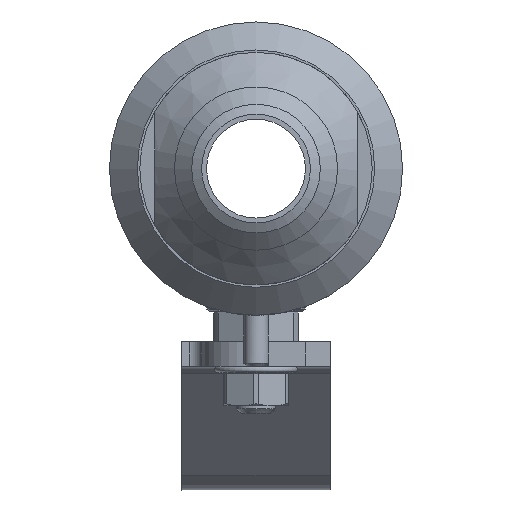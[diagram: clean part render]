
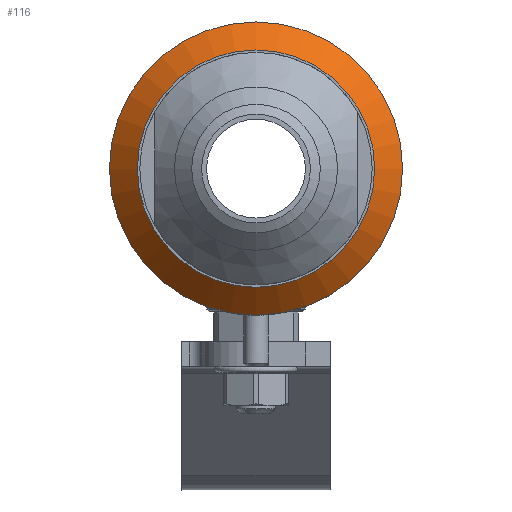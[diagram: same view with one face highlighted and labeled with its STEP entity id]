
A CAD part, left-side view. The second image highlights one B-rep face of the part: STEP entity #116.
In plain terms, the highlighted conical face has half-angle 45 degrees and reference radius 26.825 mm.
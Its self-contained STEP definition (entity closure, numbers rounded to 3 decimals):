
#116=ADVANCED_FACE('',(#957),#959,.T.);
#957=FACE_OUTER_BOUND('',#958,.T.);
#958=EDGE_LOOP('',(#1923,#1924,#1925,#1926));
#959=CONICAL_SURFACE('',#960,26.825,0.785);
#960=AXIS2_PLACEMENT_3D('',#961,#962,#963);
#961=CARTESIAN_POINT('',(-21.175,0.,0.));
#962=DIRECTION('',(1.,0.,0.));
#963=DIRECTION('',(0.,1.,0.));
#1923=ORIENTED_EDGE('',*,*,#2854,.T.);
#1924=ORIENTED_EDGE('',*,*,#2847,.T.);
#1925=ORIENTED_EDGE('',*,*,#2854,.F.);
#1926=ORIENTED_EDGE('',*,*,#2855,.F.);
#2847=EDGE_CURVE('',#3145,#3145,#3147,.T.);
#2854=EDGE_CURVE('',#3158,#3145,#3159,.T.);
#2855=EDGE_CURVE('',#3158,#3158,#3160,.T.);
#3145=VERTEX_POINT('',#4324);
#3147=CIRCLE('',#4328,29.65);
#3158=VERTEX_POINT('',#4358);
#3159=LINE('',#4359,#4360);
#3160=CIRCLE('',#4362,24.);
#4324=CARTESIAN_POINT('',(-18.35,-29.65,0.));
#4328=AXIS2_PLACEMENT_3D('',#4329,#4330,#4331);
#4329=CARTESIAN_POINT('',(-18.35,0.,0.));
#4330=DIRECTION('',(-1.,0.,0.));
#4331=DIRECTION('',(0.,-1.,0.));
#4358=CARTESIAN_POINT('',(-24.,-24.,0.));
#4359=CARTESIAN_POINT('',(-24.,-24.,0.));
#4360=VECTOR('',#4361,1.);
#4361=DIRECTION('',(0.707,-0.707,0.));
#4362=AXIS2_PLACEMENT_3D('',#4363,#4364,#4365);
#4363=CARTESIAN_POINT('',(-24.,0.,0.));
#4364=DIRECTION('',(-1.,0.,0.));
#4365=DIRECTION('',(0.,-1.,0.));
